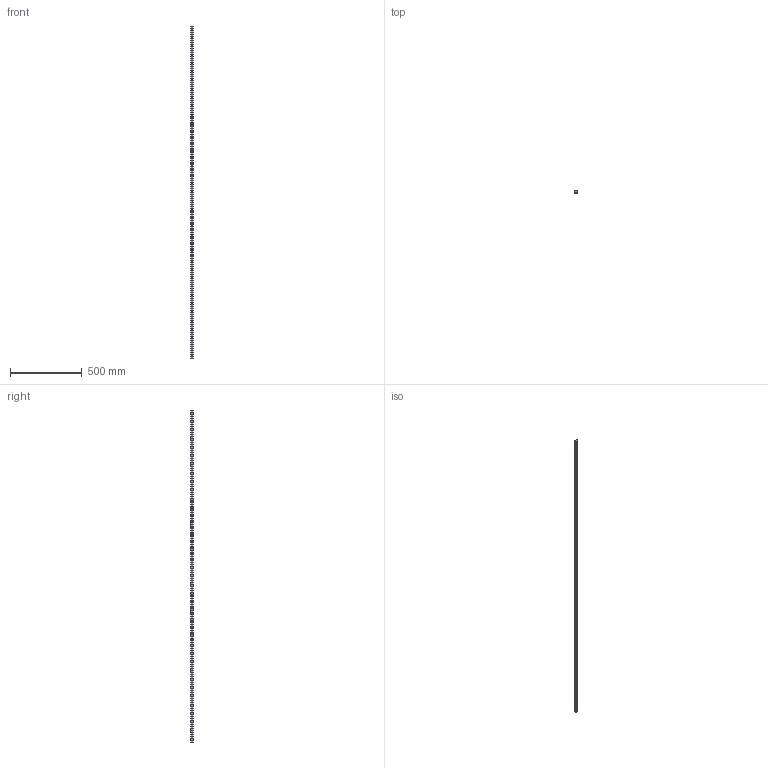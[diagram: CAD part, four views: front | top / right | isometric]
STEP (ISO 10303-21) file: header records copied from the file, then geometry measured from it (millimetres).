
FILE_DESCRIPTION (( 'STEP AP203' ), '1' );
FILE_NAME ('L1016.BL20-2320.step', '2019-06-12T11:52:33', ( '' ), ( '' ), 'SwSTEP 2.0', 'SolidWorks 2017', '' );
FILE_SCHEMA (( 'CONFIG_CONTROL_DESIGN' ));
Length unit declared in the file: millimetre
Products named in the file (1): L1016.BL20-2320
Bounding box: 20 x 16.3 x 2320 mm (x, y, z)
Volume: 644839.4 mm3; surface area: 186757.4 mm2
Topology: 1 solids, 1 shells, 221 faces, 540 edges, 360 vertices
Faces by surface type: cylinder 160, plane 61
Entity records: 6907 total; most frequent: DIRECTION 1304, CARTESIAN_POINT 1122, ORIENTED_EDGE 1080, AXIS2_PLACEMENT_3D 542, EDGE_CURVE 540, VERTEX_POINT 360, EDGE_LOOP 338, CIRCLE 320
